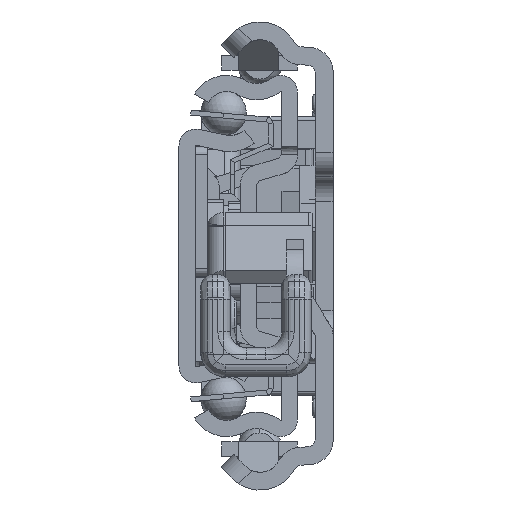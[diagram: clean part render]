
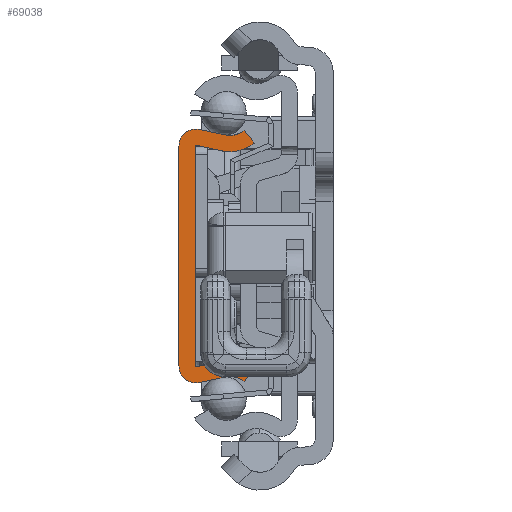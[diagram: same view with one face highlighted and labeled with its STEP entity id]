
A CAD part, left-side view. The second image highlights one B-rep face of the part: STEP entity #69038.
In plain terms, the highlighted planar face has unit normal (-1, 0, 0).
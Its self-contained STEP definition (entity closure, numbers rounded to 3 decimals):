
#63826=CARTESIAN_POINT('',(0.,-6.29,-17.65));
#63827=DIRECTION('',(-1.,0.,0.));
#63828=DIRECTION('',(0.,-0.629,0.778));
#63829=AXIS2_PLACEMENT_3D('',#63826,#63827,#63828);
#63831=DIRECTION('',(0.,0.977,-0.213));
#63832=VECTOR('',#63831,3.218);
#63833=CARTESIAN_POINT('',(0.,-5.692,-14.915));
#63834=LINE('',#63833,#63832);
#63835=CARTESIAN_POINT('',(0.,-2.1,-13.55));
#63836=DIRECTION('',(1.,0.,0.));
#63837=DIRECTION('',(0.,-0.213,-0.977));
#63838=AXIS2_PLACEMENT_3D('',#63835,#63836,#63837);
#63840=DIRECTION('',(0.,0.,1.));
#63841=VECTOR('',#63840,27.1);
#63842=CARTESIAN_POINT('',(0.,0.,-13.55));
#63843=LINE('',#63842,#63841);
#63844=CARTESIAN_POINT('',(0.,-2.1,13.55));
#63845=DIRECTION('',(1.,0.,0.));
#63846=DIRECTION('',(0.,1.,0.));
#63847=AXIS2_PLACEMENT_3D('',#63844,#63845,#63846);
#63849=DIRECTION('',(0.,-0.977,-0.213));
#63850=VECTOR('',#63849,3.218);
#63851=CARTESIAN_POINT('',(0.,-2.548,15.602));
#63852=LINE('',#63851,#63850);
#63853=CARTESIAN_POINT('',(0.,-6.29,17.65));
#63854=DIRECTION('',(-1.,0.,0.));
#63855=DIRECTION('',(0.,0.213,-0.977));
#63856=AXIS2_PLACEMENT_3D('',#63853,#63854,#63855);
#63858=DIRECTION('',(0.,-0.629,-0.778));
#63859=VECTOR('',#63858,2.);
#63860=CARTESIAN_POINT('',(0.,-8.05,15.472));
#63861=LINE('',#63860,#63859);
#63862=CARTESIAN_POINT('',(0.,-6.29,17.65));
#63863=DIRECTION('',(1.,0.,0.));
#63864=DIRECTION('',(0.,-0.629,-0.778));
#63865=AXIS2_PLACEMENT_3D('',#63862,#63863,#63864);
#63867=DIRECTION('',(0.,0.977,0.213));
#63868=VECTOR('',#63867,3.218);
#63869=CARTESIAN_POINT('',(0.,-5.265,12.961));
#63870=LINE('',#63869,#63868);
#63871=CARTESIAN_POINT('',(0.,-2.1,13.55));
#63872=DIRECTION('',(-1.,0.,0.));
#63873=DIRECTION('',(0.,-0.213,0.977));
#63874=AXIS2_PLACEMENT_3D('',#63871,#63872,#63873);
#63876=DIRECTION('',(0.,0.,-1.));
#63877=VECTOR('',#63876,27.1);
#63878=CARTESIAN_POINT('',(0.,-2.,13.55));
#63879=LINE('',#63878,#63877);
#63880=CARTESIAN_POINT('',(0.,-2.1,-13.55));
#63881=DIRECTION('',(-1.,0.,0.));
#63882=DIRECTION('',(0.,1.,0.));
#63883=AXIS2_PLACEMENT_3D('',#63880,#63881,#63882);
#63885=DIRECTION('',(0.,-0.977,0.213));
#63886=VECTOR('',#63885,3.218);
#63887=CARTESIAN_POINT('',(0.,-2.121,-13.648));
#63888=LINE('',#63887,#63886);
#63889=CARTESIAN_POINT('',(0.,-6.29,-17.65));
#63890=DIRECTION('',(1.,0.,0.));
#63891=DIRECTION('',(0.,0.213,0.977));
#63892=AXIS2_PLACEMENT_3D('',#63889,#63890,#63891);
#63894=DIRECTION('',(0.,0.629,-0.778));
#63895=VECTOR('',#63894,2.);
#63896=CARTESIAN_POINT('',(0.,-9.307,-13.917));
#63897=LINE('',#63896,#63895);
#67533=CARTESIAN_POINT('',(0.,-8.05,-15.472));
#67534=CARTESIAN_POINT('',(0.,-5.692,-14.915));
#67535=VERTEX_POINT('',#67533);
#67536=VERTEX_POINT('',#67534);
#67537=CARTESIAN_POINT('',(0.,-2.548,-15.602));
#67538=VERTEX_POINT('',#67537);
#67539=CARTESIAN_POINT('',(0.,0.,-13.55));
#67540=VERTEX_POINT('',#67539);
#67541=CARTESIAN_POINT('',(0.,0.,13.55));
#67542=VERTEX_POINT('',#67541);
#67543=CARTESIAN_POINT('',(0.,-2.548,15.602));
#67544=VERTEX_POINT('',#67543);
#67545=CARTESIAN_POINT('',(0.,-5.692,14.915));
#67546=VERTEX_POINT('',#67545);
#67547=CARTESIAN_POINT('',(0.,-8.05,15.472));
#67548=VERTEX_POINT('',#67547);
#67549=CARTESIAN_POINT('',(0.,-9.307,13.917));
#67550=VERTEX_POINT('',#67549);
#67551=CARTESIAN_POINT('',(0.,-5.265,12.961));
#67552=VERTEX_POINT('',#67551);
#67553=CARTESIAN_POINT('',(0.,-2.121,13.648));
#67554=VERTEX_POINT('',#67553);
#67555=CARTESIAN_POINT('',(0.,-2.,13.55));
#67556=VERTEX_POINT('',#67555);
#67557=CARTESIAN_POINT('',(0.,-2.,-13.55));
#67558=VERTEX_POINT('',#67557);
#67559=CARTESIAN_POINT('',(0.,-2.121,-13.648));
#67560=VERTEX_POINT('',#67559);
#67561=CARTESIAN_POINT('',(0.,-5.265,-12.961));
#67562=VERTEX_POINT('',#67561);
#67563=CARTESIAN_POINT('',(0.,-9.307,-13.917));
#67564=VERTEX_POINT('',#67563);
#69000=CARTESIAN_POINT('',(0.,0.,0.));
#69001=DIRECTION('',(1.,0.,0.));
#69002=DIRECTION('',(0.,-1.,0.));
#69003=AXIS2_PLACEMENT_3D('',#69000,#69001,#69002);
#69004=PLANE('',#69003);
#69006=ORIENTED_EDGE('',*,*,#69005,.T.);
#69008=ORIENTED_EDGE('',*,*,#69007,.T.);
#69010=ORIENTED_EDGE('',*,*,#69009,.T.);
#69011=ORIENTED_EDGE('',*,*,#68589,.T.);
#69013=ORIENTED_EDGE('',*,*,#69012,.T.);
#69015=ORIENTED_EDGE('',*,*,#69014,.T.);
#69017=ORIENTED_EDGE('',*,*,#69016,.T.);
#69019=ORIENTED_EDGE('',*,*,#69018,.T.);
#69021=ORIENTED_EDGE('',*,*,#69020,.T.);
#69023=ORIENTED_EDGE('',*,*,#69022,.T.);
#69025=ORIENTED_EDGE('',*,*,#69024,.T.);
#69027=ORIENTED_EDGE('',*,*,#69026,.T.);
#69029=ORIENTED_EDGE('',*,*,#69028,.T.);
#69031=ORIENTED_EDGE('',*,*,#69030,.T.);
#69033=ORIENTED_EDGE('',*,*,#69032,.T.);
#69035=ORIENTED_EDGE('',*,*,#69034,.T.);
#69036=EDGE_LOOP('',(#69006,#69008,#69010,#69011,#69013,#69015,#69017,#69019,
#69021,#69023,#69025,#69027,#69029,#69031,#69033,#69035));
#69037=FACE_OUTER_BOUND('',#69036,.F.);
#63830=CIRCLE('',#63829,2.8);
#63839=CIRCLE('',#63838,2.1);
#63848=CIRCLE('',#63847,2.1);
#63857=CIRCLE('',#63856,2.8);
#63866=CIRCLE('',#63865,4.8);
#63875=CIRCLE('',#63874,0.1);
#63884=CIRCLE('',#63883,0.1);
#63893=CIRCLE('',#63892,4.8);
#68589=EDGE_CURVE('',#67540,#67542,#63843,.T.);
#69005=EDGE_CURVE('',#67535,#67536,#63830,.T.);
#69007=EDGE_CURVE('',#67536,#67538,#63834,.T.);
#69009=EDGE_CURVE('',#67538,#67540,#63839,.T.);
#69012=EDGE_CURVE('',#67542,#67544,#63848,.T.);
#69014=EDGE_CURVE('',#67544,#67546,#63852,.T.);
#69016=EDGE_CURVE('',#67546,#67548,#63857,.T.);
#69018=EDGE_CURVE('',#67548,#67550,#63861,.T.);
#69020=EDGE_CURVE('',#67550,#67552,#63866,.T.);
#69022=EDGE_CURVE('',#67552,#67554,#63870,.T.);
#69024=EDGE_CURVE('',#67554,#67556,#63875,.T.);
#69026=EDGE_CURVE('',#67556,#67558,#63879,.T.);
#69028=EDGE_CURVE('',#67558,#67560,#63884,.T.);
#69030=EDGE_CURVE('',#67560,#67562,#63888,.T.);
#69032=EDGE_CURVE('',#67562,#67564,#63893,.T.);
#69034=EDGE_CURVE('',#67564,#67535,#63897,.T.);
#69038=ADVANCED_FACE('',(#69037),#69004,.F.);
